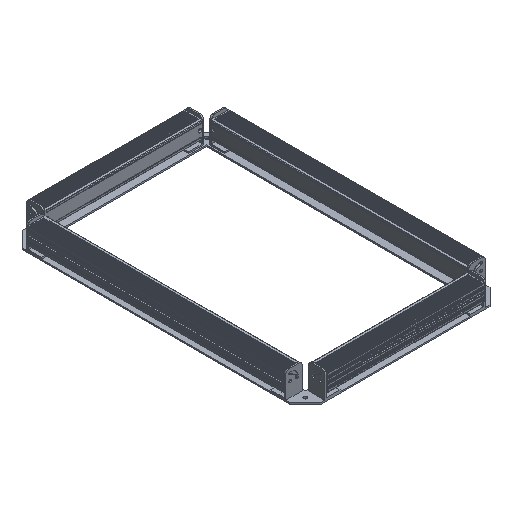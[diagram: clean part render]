
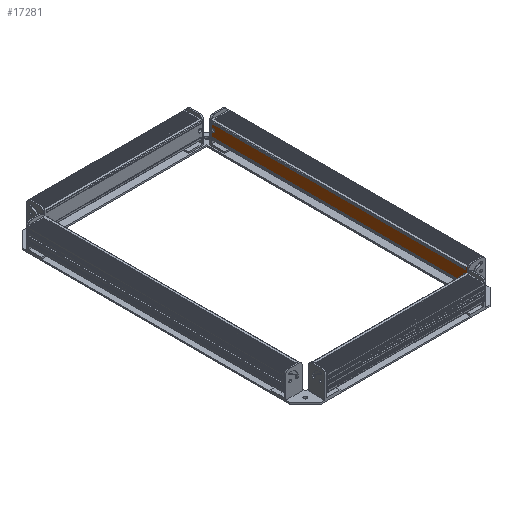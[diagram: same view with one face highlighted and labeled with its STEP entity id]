
A CAD part, isometric view. The second image highlights one B-rep face of the part: STEP entity #17281.
In plain terms, the highlighted planar face has unit normal (-1, 0, 0.001) as drawn and (0, 1, 0) by its records, which use the part's own axes.
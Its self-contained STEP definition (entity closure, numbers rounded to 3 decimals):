
#13320=DIRECTION('',(-1.,0.,0.));
#13321=VECTOR('',#13320,2.8);
#13322=CARTESIAN_POINT('',(-8.2,11.402,-168.));
#13323=LINE('',#13322,#13321);
#13324=DIRECTION('',(0.,0.,1.));
#13325=VECTOR('',#13324,2.);
#13326=CARTESIAN_POINT('',(11.,11.402,-170.));
#13327=LINE('',#13326,#13325);
#13328=DIRECTION('',(-1.,0.,0.));
#13329=VECTOR('',#13328,2.8);
#13330=CARTESIAN_POINT('',(11.,11.402,-168.));
#13331=LINE('',#13330,#13329);
#13332=DIRECTION('',(0.,0.,-1.));
#13333=VECTOR('',#13332,2.);
#13334=CARTESIAN_POINT('',(-11.,11.402,170.));
#13335=LINE('',#13334,#13333);
#13336=CARTESIAN_POINT('',(0.,11.402,-167.));
#13337=DIRECTION('',(0.,1.,0.));
#13338=DIRECTION('',(-1.,0.,0.));
#13339=AXIS2_PLACEMENT_3D('',#13336,#13337,#13338);
#13341=CARTESIAN_POINT('',(0.,11.402,-167.));
#13342=DIRECTION('',(0.,1.,0.));
#13343=DIRECTION('',(0.,0.,1.));
#13344=AXIS2_PLACEMENT_3D('',#13341,#13342,#13343);
#13346=CARTESIAN_POINT('',(0.,11.402,-167.));
#13347=DIRECTION('',(0.,1.,0.));
#13348=DIRECTION('',(1.,0.,0.));
#13349=AXIS2_PLACEMENT_3D('',#13346,#13347,#13348);
#13351=CARTESIAN_POINT('',(0.,11.402,-167.));
#13352=DIRECTION('',(0.,1.,0.));
#13353=DIRECTION('',(0.,0.,-1.));
#13354=AXIS2_PLACEMENT_3D('',#13351,#13352,#13353);
#13356=CARTESIAN_POINT('',(0.,11.402,167.));
#13357=DIRECTION('',(0.,1.,0.));
#13358=DIRECTION('',(0.,0.,1.));
#13359=AXIS2_PLACEMENT_3D('',#13356,#13357,#13358);
#13361=CARTESIAN_POINT('',(0.,11.402,167.));
#13362=DIRECTION('',(0.,1.,0.));
#13363=DIRECTION('',(0.,0.,-1.));
#13364=AXIS2_PLACEMENT_3D('',#13361,#13362,#13363);
#13366=DIRECTION('',(0.,0.,1.));
#13367=VECTOR('',#13366,336.);
#13368=CARTESIAN_POINT('',(-8.2,11.402,-168.));
#13369=LINE('',#13368,#13367);
#13400=DIRECTION('',(-1.,0.,0.));
#13401=VECTOR('',#13400,2.8);
#13402=CARTESIAN_POINT('',(-8.2,11.402,168.));
#13403=LINE('',#13402,#13401);
#13408=DIRECTION('',(0.,0.,1.));
#13409=VECTOR('',#13408,2.);
#13410=CARTESIAN_POINT('',(-11.,11.402,-170.));
#13411=LINE('',#13410,#13409);
#13624=DIRECTION('',(0.,0.,-1.));
#13625=VECTOR('',#13624,2.);
#13626=CARTESIAN_POINT('',(11.,11.402,170.));
#13627=LINE('',#13626,#13625);
#13734=DIRECTION('',(-1.,0.,0.));
#13735=VECTOR('',#13734,2.8);
#13736=CARTESIAN_POINT('',(11.,11.402,168.));
#13737=LINE('',#13736,#13735);
#13764=DIRECTION('',(0.,0.,-1.));
#13765=VECTOR('',#13764,336.);
#13766=CARTESIAN_POINT('',(8.2,11.402,168.));
#13767=LINE('',#13766,#13765);
#13784=DIRECTION('',(-1.,0.,0.));
#13785=VECTOR('',#13784,22.);
#13786=CARTESIAN_POINT('',(11.,11.402,-170.));
#13787=LINE('',#13786,#13785);
#13959=DIRECTION('',(1.,0.,0.));
#13960=VECTOR('',#13959,22.);
#13961=CARTESIAN_POINT('',(-11.,11.402,170.));
#13962=LINE('',#13961,#13960);
#16312=CARTESIAN_POINT('',(-8.2,11.402,-168.));
#16313=CARTESIAN_POINT('',(-11.,11.402,-168.));
#16314=VERTEX_POINT('',#16312);
#16315=VERTEX_POINT('',#16313);
#16326=CARTESIAN_POINT('',(11.,11.402,-168.));
#16327=CARTESIAN_POINT('',(8.2,11.402,-168.));
#16328=VERTEX_POINT('',#16326);
#16329=VERTEX_POINT('',#16327);
#16340=CARTESIAN_POINT('',(-8.2,11.402,168.));
#16341=VERTEX_POINT('',#16340);
#16342=CARTESIAN_POINT('',(-11.,11.402,-170.));
#16343=VERTEX_POINT('',#16342);
#16344=CARTESIAN_POINT('',(11.,11.402,-170.));
#16345=VERTEX_POINT('',#16344);
#16346=CARTESIAN_POINT('',(8.2,11.402,168.));
#16347=VERTEX_POINT('',#16346);
#16348=CARTESIAN_POINT('',(11.,11.402,168.));
#16349=VERTEX_POINT('',#16348);
#16350=CARTESIAN_POINT('',(11.,11.402,170.));
#16351=VERTEX_POINT('',#16350);
#16352=CARTESIAN_POINT('',(-11.,11.402,170.));
#16353=VERTEX_POINT('',#16352);
#16354=CARTESIAN_POINT('',(-11.,11.402,168.));
#16355=VERTEX_POINT('',#16354);
#16356=CARTESIAN_POINT('',(0.,11.402,
-164.6));
#16357=CARTESIAN_POINT('',(2.4,11.402,-167.));
#16358=VERTEX_POINT('',#16356);
#16359=VERTEX_POINT('',#16357);
#16360=CARTESIAN_POINT('',(-2.4,11.402,-167.));
#16361=VERTEX_POINT('',#16360);
#16362=CARTESIAN_POINT('',(0.,11.402,-169.4));
#16363=VERTEX_POINT('',#16362);
#16364=CARTESIAN_POINT('',(0.,11.402,169.4));
#16365=CARTESIAN_POINT('',(0.,11.402,164.6));
#16366=VERTEX_POINT('',#16364);
#16367=VERTEX_POINT('',#16365);
#17235=CARTESIAN_POINT('',(8.2,11.402,-168.));
#17236=DIRECTION('',(0.,1.,0.));
#17237=DIRECTION('',(-1.,0.,0.));
#17238=AXIS2_PLACEMENT_3D('',#17235,#17236,#17237);
#17239=PLANE('',#17238);
#17241=ORIENTED_EDGE('',*,*,#17240,.F.);
#17242=ORIENTED_EDGE('',*,*,#17218,.T.);
#17244=ORIENTED_EDGE('',*,*,#17243,.F.);
#17246=ORIENTED_EDGE('',*,*,#17245,.F.);
#17248=ORIENTED_EDGE('',*,*,#17247,.T.);
#17250=ORIENTED_EDGE('',*,*,#17249,.T.);
#17252=ORIENTED_EDGE('',*,*,#17251,.F.);
#17254=ORIENTED_EDGE('',*,*,#17253,.F.);
#17256=ORIENTED_EDGE('',*,*,#17255,.F.);
#17258=ORIENTED_EDGE('',*,*,#17257,.F.);
#17260=ORIENTED_EDGE('',*,*,#17259,.T.);
#17262=ORIENTED_EDGE('',*,*,#17261,.F.);
#17263=EDGE_LOOP('',(#17241,#17242,#17244,#17246,#17248,#17250,#17252,#17254,
#17256,#17258,#17260,#17262));
#17264=FACE_OUTER_BOUND('',#17263,.F.);
#17266=ORIENTED_EDGE('',*,*,#17265,.T.);
#17268=ORIENTED_EDGE('',*,*,#17267,.T.);
#17270=ORIENTED_EDGE('',*,*,#17269,.T.);
#17272=ORIENTED_EDGE('',*,*,#17271,.T.);
#17273=EDGE_LOOP('',(#17266,#17268,#17270,#17272));
#17274=FACE_BOUND('',#17273,.F.);
#17276=ORIENTED_EDGE('',*,*,#17275,.T.);
#17278=ORIENTED_EDGE('',*,*,#17277,.T.);
#17279=EDGE_LOOP('',(#17276,#17278));
#17280=FACE_BOUND('',#17279,.F.);
#13340=CIRCLE('',#13339,2.4);
#13345=CIRCLE('',#13344,2.4);
#13350=CIRCLE('',#13349,2.4);
#13355=CIRCLE('',#13354,2.4);
#13360=CIRCLE('',#13359,2.4);
#13365=CIRCLE('',#13364,2.4);
#17218=EDGE_CURVE('',#16314,#16315,#13323,.T.);
#17240=EDGE_CURVE('',#16314,#16341,#13369,.T.);
#17243=EDGE_CURVE('',#16343,#16315,#13411,.T.);
#17245=EDGE_CURVE('',#16345,#16343,#13787,.T.);
#17247=EDGE_CURVE('',#16345,#16328,#13327,.T.);
#17249=EDGE_CURVE('',#16328,#16329,#13331,.T.);
#17251=EDGE_CURVE('',#16347,#16329,#13767,.T.);
#17253=EDGE_CURVE('',#16349,#16347,#13737,.T.);
#17255=EDGE_CURVE('',#16351,#16349,#13627,.T.);
#17257=EDGE_CURVE('',#16353,#16351,#13962,.T.);
#17259=EDGE_CURVE('',#16353,#16355,#13335,.T.);
#17261=EDGE_CURVE('',#16341,#16355,#13403,.T.);
#17265=EDGE_CURVE('',#16361,#16358,#13340,.T.);
#17267=EDGE_CURVE('',#16358,#16359,#13345,.T.);
#17269=EDGE_CURVE('',#16359,#16363,#13350,.T.);
#17271=EDGE_CURVE('',#16363,#16361,#13355,.T.);
#17275=EDGE_CURVE('',#16366,#16367,#13360,.T.);
#17277=EDGE_CURVE('',#16367,#16366,#13365,.T.);
#17281=ADVANCED_FACE('',(#17264,#17274,#17280),#17239,.T.);
